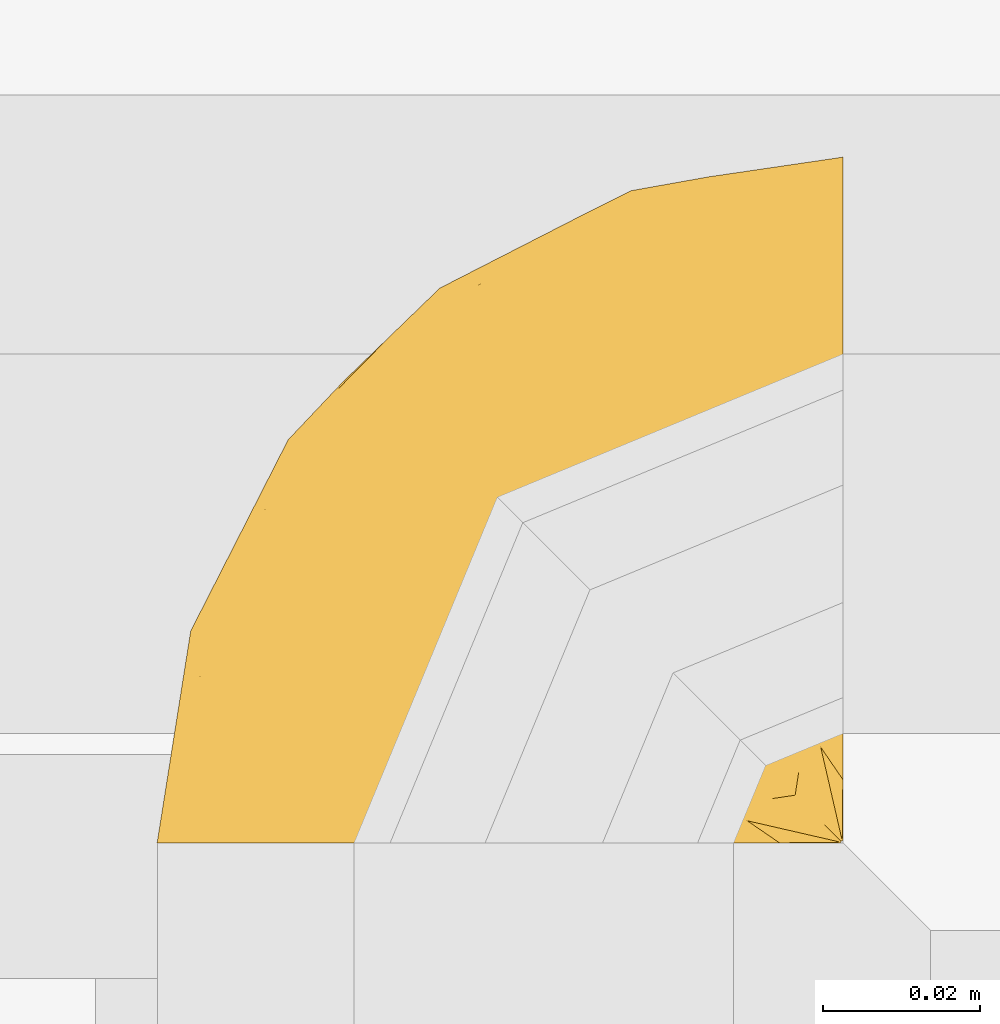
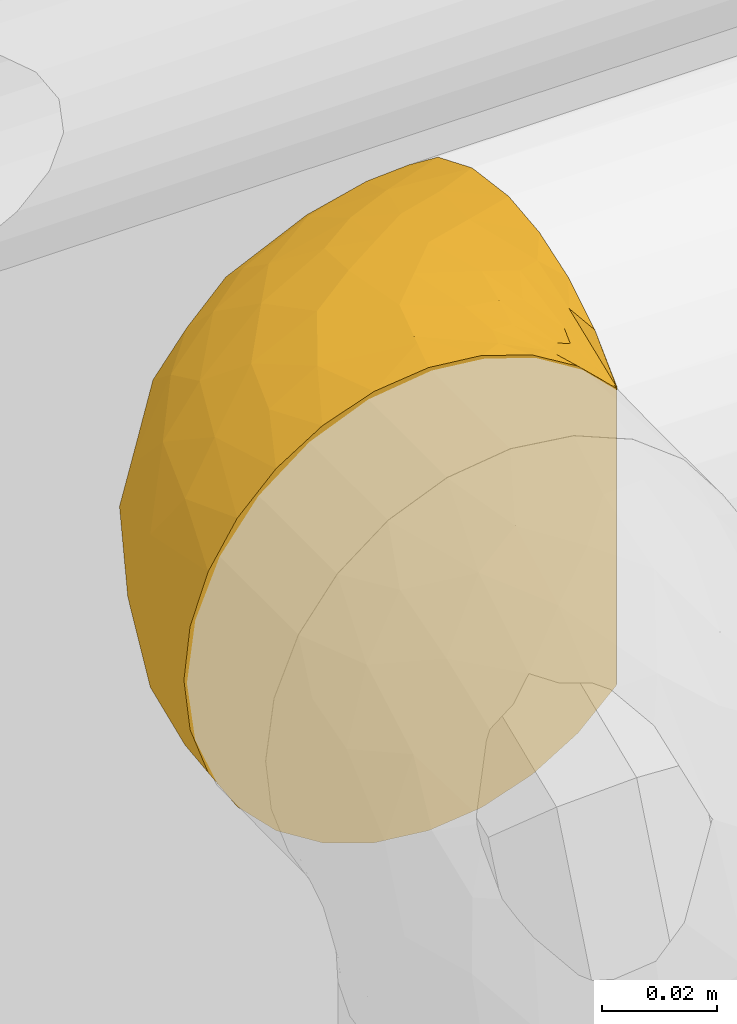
# One storey, part 15 of 94: 1 covering.
"""IFC2X3 building model written with IfcOpenShell, lengths in millimetres."""

import ifcopenshell
import ifcopenshell.guid

model = None  # the IFC model being written
_history = None  # IfcOwnerHistory: only IFC2X3 demands one
_inside = {}  # id of a spatial element -> (the spatial element, [elements in it])
_under = {}  # id of a project, library or spatial element -> (it, [spatial elements below it])
_declared = {}  # id of a project -> (the project, [libraries it declares])
_typed = {}  # id of a type object -> (the type object, [elements of that type])
_made_of = {}  # id of a material, layer set ... -> (it, [elements and type objects made of it])


def new_model(schema):
    """Start an empty IFC model of exactly this schema.

    Asked for "IFC4X3", IfcOpenShell would pick the latest addendum, in which some entities
    have other attributes; the version numbers below select the first issue.
    IFC2X3 requires an IfcOwnerHistory on every rooted entity: one is made here for all.
    """
    global model, _history
    if schema == "IFC4X3":
        model = ifcopenshell.file(schema_version=(4, 3, 0, 0))
    else:
        model = ifcopenshell.file(schema=schema)
    _inside.clear()
    _under.clear()
    _declared.clear()
    _typed.clear()
    _made_of.clear()
    _history = None
    if model.schema == "IFC2X3":
        org = make("IfcOrganization", Name="unknown")
        user = make(
            "IfcPersonAndOrganization",
            ThePerson=make("IfcPerson", FamilyName="unknown"),
            TheOrganization=org,
        )
        app = make(
            "IfcApplication",
            ApplicationDeveloper=org,
            Version="unknown",
            ApplicationFullName="unknown",
            ApplicationIdentifier="unknown",
        )
        _history = make(
            "IfcOwnerHistory",
            OwningUser=user,
            OwningApplication=app,
            ChangeAction="ADDED",
            CreationDate=0,
        )
    return model


def make(cls, **values):
    """One entity of the class cls with the attributes given. An attribute that is None is left unset."""
    return model.create_entity(
        cls, **{name: value for name, value in values.items() if value is not None}
    )


def entity(cls, *values):
    """Any entity or typed value of the class cls, its attributes in the order of the schema. None: left unset."""
    e = model.create_entity(cls)
    for i, value in enumerate(values):
        if value is not None:
            e[i] = value
    return e


def rooted(cls, **values):
    """An entity with a GlobalId (a new one), such as an element, a storey or a relation."""
    return make(cls, GlobalId=ifcopenshell.guid.new(), OwnerHistory=_history, **values)


def si_unit(unit_type, name, prefix=None):
    """IfcSIUnit, for example si_unit("LENGTHUNIT", "METRE", prefix="MILLI")."""
    return make("IfcSIUnit", UnitType=unit_type, Prefix=prefix, Name=name)


def converted_unit(unit_type, name, factor, base, dimensions=None, offset=None):
    """IfcConversionBasedUnit, such as the inch: factor (a typed value) times the base unit."""
    return make(
        "IfcConversionBasedUnit"
        if offset is None
        else "IfcConversionBasedUnitWithOffset",
        ConversionOffset=offset,
        Dimensions=None
        if dimensions is None
        else entity("IfcDimensionalExponents", *dimensions),
        UnitType=unit_type,
        Name=name,
        ConversionFactor=make(
            "IfcMeasureWithUnit", ValueComponent=factor, UnitComponent=base
        ),
    )


def derived_unit(unit_type, elements):
    """IfcDerivedUnit: a product of units, each with its exponent."""
    return make(
        "IfcDerivedUnit",
        Elements=[
            make("IfcDerivedUnitElement", Unit=unit, Exponent=power)
            for unit, power in elements
        ],
        UnitType=unit_type,
    )


def assignment(units):
    """IfcUnitAssignment: the units of a project."""
    return None if units is None else make("IfcUnitAssignment", Units=units)


def point(xyz):
    """IfcCartesianPoint."""
    return None if xyz is None else make("IfcCartesianPoint", Coordinates=xyz)


def direction(xyz):
    """IfcDirection."""
    return None if xyz is None else make("IfcDirection", DirectionRatios=xyz)


def frame(location, z_axis=None, x_axis=None):
    """IfcAxis2Placement3D, a coordinate frame: its origin and axes. An axis left out is left unset."""
    return make(
        "IfcAxis2Placement3D",
        Location=point(location),
        Axis=direction(z_axis),
        RefDirection=direction(x_axis),
    )


def origin():
    """The frame at (0, 0, 0) with its axes left unset."""
    return frame((0.0, 0.0, 0.0))


def place(relative_to, where):
    """IfcLocalPlacement: puts the frame where relative to a parent placement (None: the world)."""
    return make(
        "IfcLocalPlacement", PlacementRelTo=relative_to, RelativePlacement=where
    )


def context(
    kind, dimensions, precision=None, world=None, true_north=None, identifier=None
):
    """IfcGeometricRepresentationContext, for example the 3D "Model" context."""
    return make(
        "IfcGeometricRepresentationContext",
        ContextIdentifier=identifier,
        ContextType=kind,
        CoordinateSpaceDimension=dimensions,
        Precision=precision,
        WorldCoordinateSystem=world,
        TrueNorth=true_north,
    )


def subcontext(parent, identifier, kind, view, scale=None):
    """IfcGeometricRepresentationSubContext, for example "Body" below "Model"."""
    return make(
        "IfcGeometricRepresentationSubContext",
        ContextIdentifier=identifier,
        ContextType=kind,
        ParentContext=parent,
        TargetScale=scale,
        TargetView=view,
    )


def project(units=None, contexts=None):
    """IfcProject with its units and contexts."""
    return rooted(
        "IfcProject",
        Name="project",
        RepresentationContexts=contexts,
        UnitsInContext=assignment(units),
    )


def spatial(cls, under=None, at=None, **own):
    """A site, building, storey or space (cls), placed at a placement, below another one or the project."""
    s = rooted(cls, ObjectPlacement=at, **own)
    if under is not None:
        _under.setdefault(under.id(), (under, []))[1].append(s)
    return s


def faces_of(points, faces, orient=None, outer=None):
    """IfcFace entities. A face is a list of loops; a loop is a list of indices into points, from 0.

    orient and outer hold one flag for each loop. By default every Orientation is true, the
    first loop of a face is its IfcFaceOuterBound and the others are IfcFaceBound.
    """
    made = []
    for i, loops in enumerate(faces):
        bounds = []
        for j, loop in enumerate(loops):
            is_outer = j == 0 if outer is None else outer[i][j]
            bounds.append(
                make(
                    "IfcFaceOuterBound" if is_outer else "IfcFaceBound",
                    Bound=make("IfcPolyLoop", Polygon=[points[k] for k in loop]),
                    Orientation=True if orient is None else orient[i][j],
                )
            )
        made.append(make("IfcFace", Bounds=bounds))
    return made


def faceted_brep(points, faces, orient=None, outer=None, voids=None):
    """IfcFacetedBrep: a solid bounded by flat faces; with voids (closed shells), ...WithVoids."""
    shared = [point(p) for p in points]
    hull = make("IfcClosedShell", CfsFaces=faces_of(shared, faces, orient, outer))
    if voids is None:
        return make("IfcFacetedBrep", Outer=hull)
    return make(
        "IfcFacetedBrepWithVoids",
        Outer=hull,
        Voids=[
            make(cls, CfsFaces=faces_of(shared, fs, o, b)) for cls, fs, o, b in voids
        ],
    )


def shape(context_of_items, identifier, shape_type, items):
    """IfcShapeRepresentation: the items that make up one representation, for example the "Body"."""
    return make(
        "IfcShapeRepresentation",
        ContextOfItems=context_of_items,
        RepresentationIdentifier=identifier,
        RepresentationType=shape_type,
        Items=items,
    )


def material(Name=None, Category=None):
    """IfcMaterial."""
    return make("IfcMaterial", Name=Name, Category=Category)


def made_of(thing, what):
    """Note that an element or type object is made of a material, layer set ...; save() writes the relation."""
    if what is not None:
        _made_of.setdefault(what.id(), (what, []))[1].append(thing)
    return thing


def element(
    cls,
    number,
    at=None,
    inside=None,
    cuts=None,
    type_object=None,
    material=None,
    context=None,
    identifier="Body",
    shape_type=None,
    held_by="IfcProductDefinitionShape",
    body=None,
    shapes=None,
    **own,
):
    """One element of the class cls, such as IfcWall. Its Tag is "e" and its number.

    at: its placement. inside: the storey or other place that contains it. cuts: it is an
    opening in that element (IfcRelVoidsElement). A single representation is given by context,
    identifier, shape_type and body (its items); several are given by shapes. held_by: the class
    of the entity that holds the representations. save() writes the other relations.
    """
    e = rooted(cls, Tag="e%d" % number, ObjectPlacement=at, **own)
    if body is not None:
        shapes = [shape(context, identifier, shape_type, body)]
    if shapes is not None:
        e.Representation = make(held_by, Representations=shapes)
    if inside is not None:
        _inside.setdefault(inside.id(), (inside, []))[1].append(e)
    if cuts is not None:
        rooted(
            "IfcRelVoidsElement", RelatingBuildingElement=cuts, RelatedOpeningElement=e
        )
    if type_object is not None:
        _typed.setdefault(type_object.id(), (type_object, []))[1].append(e)
    return made_of(e, material)


def aggregate(whole, parts):
    """IfcRelAggregates: a whole, such as a stair, and the parts it consists of."""
    return rooted("IfcRelAggregates", RelatingObject=whole, RelatedObjects=parts)


def save(model, path):
    """Write the relations noted so far, then the file.

    IfcRelAggregates (storeys below a building ...), IfcRelContainedInSpatialStructure (elements
    in a storey), IfcRelDefinesByType, IfcRelAssociatesMaterial and IfcRelDeclares: one each for
    every whole, place, type object, material and project.
    """
    for whole, parts in _under.values():
        aggregate(whole, parts)
    for where, things in _inside.values():
        rooted(
            "IfcRelContainedInSpatialStructure",
            RelatedElements=things,
            RelatingStructure=where,
        )
    for kind, things in _typed.values():
        rooted("IfcRelDefinesByType", RelatedObjects=things, RelatingType=kind)
    for what, things in _made_of.values():
        rooted("IfcRelAssociatesMaterial", RelatedObjects=things, RelatingMaterial=what)
    for by, libraries in _declared.values():
        rooted("IfcRelDeclares", RelatingContext=by, RelatedDefinitions=libraries)
    model.write(path)


model = new_model("IFC2X3")

# Units and contexts
model_context = context("Model", 3, precision=0.01, world=origin(), true_north=direction((6.123031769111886e-17, 1.0)))
body_context = subcontext(model_context, "Body", "Model", "MODEL_VIEW")
ifc_project = project(units=[si_unit("LENGTHUNIT", "METRE", prefix="MILLI"), si_unit("AREAUNIT", "SQUARE_METRE"), si_unit("VOLUMEUNIT", "CUBIC_METRE"), converted_unit("PLANEANGLEUNIT", "DEGREE", entity("IfcRatioMeasure", 0.017453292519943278), si_unit("PLANEANGLEUNIT", "RADIAN"), dimensions=[0, 0, 0, 0, 0, 0, 0]), si_unit("MASSUNIT", "GRAM", prefix="KILO"), derived_unit("MASSDENSITYUNIT", [(si_unit("MASSUNIT", "GRAM", prefix="KILO"), 1), (si_unit("LENGTHUNIT", "METRE"), -3)]), derived_unit("IONCONCENTRATIONUNIT", [(si_unit("MASSUNIT", "GRAM", prefix="KILO"), 1), (si_unit("LENGTHUNIT", "METRE"), -3)]), derived_unit("MOMENTOFINERTIAUNIT", [(si_unit("LENGTHUNIT", "METRE"), 4)]), si_unit("TIMEUNIT", "SECOND"), si_unit("FREQUENCYUNIT", "HERTZ"), si_unit("THERMODYNAMICTEMPERATUREUNIT", "DEGREE_CELSIUS"), derived_unit("THERMALTRANSMITTANCEUNIT", [(si_unit("MASSUNIT", "GRAM", prefix="KILO"), 1), (si_unit("THERMODYNAMICTEMPERATUREUNIT", "KELVIN"), -1), (si_unit("TIMEUNIT", "SECOND"), -3)]), derived_unit("THERMALCONDUCTANCEUNIT", [(si_unit("MASSUNIT", "GRAM", prefix="KILO"), 1), (si_unit("THERMODYNAMICTEMPERATUREUNIT", "KELVIN"), -1), (si_unit("TIMEUNIT", "SECOND"), -3), (si_unit("LENGTHUNIT", "METRE"), 1)]), derived_unit("VOLUMETRICFLOWRATEUNIT", [(si_unit("LENGTHUNIT", "METRE"), 3), (si_unit("TIMEUNIT", "SECOND"), -1)]), derived_unit("MASSFLOWRATEUNIT", [(si_unit("MASSUNIT", "GRAM", prefix="KILO"), 1), (si_unit("TIMEUNIT", "SECOND"), -1)]), derived_unit("ROTATIONALFREQUENCYUNIT", [(si_unit("TIMEUNIT", "SECOND"), -1)]), si_unit("ELECTRICCURRENTUNIT", "AMPERE"), si_unit("ELECTRICVOLTAGEUNIT", "VOLT"), si_unit("POWERUNIT", "WATT"), si_unit("FORCEUNIT", "NEWTON", prefix="KILO"), si_unit("ILLUMINANCEUNIT", "LUX"), si_unit("LUMINOUSFLUXUNIT", "LUMEN"), si_unit("LUMINOUSINTENSITYUNIT", "CANDELA"), derived_unit("USERDEFINED", [(si_unit("MASSUNIT", "GRAM", prefix="KILO"), -1), (si_unit("LENGTHUNIT", "METRE"), -2), (si_unit("TIMEUNIT", "SECOND"), 3), (si_unit("LUMINOUSFLUXUNIT", "LUMEN"), 1)]), derived_unit("USERDEFINED", [(si_unit("MASSUNIT", "GRAM", prefix="KILO"), 1), (si_unit("TIMEUNIT", "SECOND"), -3), (si_unit("LENGTHUNIT", "METRE"), 3), (si_unit("ELECTRICCURRENTUNIT", "AMPERE"), -2)]), derived_unit("SOUNDPOWERUNIT", [(si_unit("MASSUNIT", "GRAM", prefix="KILO"), 1), (si_unit("TIMEUNIT", "SECOND"), -3), (si_unit("LENGTHUNIT", "METRE"), 2)]), derived_unit("SOUNDPRESSUREUNIT", [(si_unit("MASSUNIT", "GRAM", prefix="KILO"), 1), (si_unit("LENGTHUNIT", "METRE"), -1), (si_unit("TIMEUNIT", "SECOND"), -2)]), derived_unit("LINEARVELOCITYUNIT", [(si_unit("LENGTHUNIT", "METRE"), 1), (si_unit("TIMEUNIT", "SECOND"), -1)]), si_unit("PRESSUREUNIT", "PASCAL"), derived_unit("USERDEFINED", [(si_unit("MASSUNIT", "GRAM", prefix="KILO"), 1), (si_unit("LENGTHUNIT", "METRE"), -2), (si_unit("TIMEUNIT", "SECOND"), -2)]), derived_unit("LINEARFORCEUNIT", [(si_unit("MASSUNIT", "GRAM", prefix="KILO"), 1), (si_unit("TIMEUNIT", "SECOND"), -2)]), derived_unit("PLANARFORCEUNIT", [(si_unit("MASSUNIT", "GRAM", prefix="KILO"), 1), (si_unit("LENGTHUNIT", "METRE"), -1), (si_unit("TIMEUNIT", "SECOND"), -2)]), derived_unit("SPECIFICHEATCAPACITYUNIT", [(si_unit("THERMODYNAMICTEMPERATUREUNIT", "KELVIN"), -1), (si_unit("LENGTHUNIT", "METRE"), 2), (si_unit("TIMEUNIT", "SECOND"), -2)]), derived_unit("HEATINGVALUEUNIT", [(si_unit("LENGTHUNIT", "METRE"), 2), (si_unit("TIMEUNIT", "SECOND"), -2)]), derived_unit("VAPORPERMEABILITYUNIT", [(si_unit("LENGTHUNIT", "METRE"), -1), (si_unit("TIMEUNIT", "SECOND"), 1)]), derived_unit("DYNAMICVISCOSITYUNIT", [(si_unit("MASSUNIT", "GRAM", prefix="KILO"), 1), (si_unit("TIMEUNIT", "SECOND"), -1), (si_unit("LENGTHUNIT", "METRE"), -1)]), derived_unit("THERMALEXPANSIONCOEFFICIENTUNIT", [(si_unit("THERMODYNAMICTEMPERATUREUNIT", "KELVIN"), -1)]), derived_unit("MODULUSOFELASTICITYUNIT", [(si_unit("MASSUNIT", "GRAM", prefix="KILO"), 1), (si_unit("LENGTHUNIT", "METRE"), -1), (si_unit("TIMEUNIT", "SECOND"), -2)]), derived_unit("ISOTHERMALMOISTURECAPACITYUNIT", [(si_unit("LENGTHUNIT", "METRE"), 3), (si_unit("MASSUNIT", "GRAM", prefix="KILO"), -1)]), derived_unit("MOISTUREDIFFUSIVITYUNIT", [(si_unit("TIMEUNIT", "SECOND"), -1), (si_unit("LENGTHUNIT", "METRE"), 2)])], contexts=[model_context])

# Site, building, storey
site_placement = place(None, origin())
site = spatial("IfcSite", under=ifc_project, at=site_placement, Name="Default", CompositionType="ELEMENT")
building_placement = place(site_placement, origin())
building = spatial("IfcBuilding", under=site, at=building_placement, CompositionType="ELEMENT")
storey_placement = place(building_placement, origin())
storey = spatial("IfcBuildingStorey", under=building, at=storey_placement, Name="Niveau 0", CompositionType="ELEMENT", Elevation=0.0)

# Covering
ifc_material = material(Name="Isolation - Laine minérale")
covering_placement = place(storey_placement, frame((-9922.89113779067, 9987.250352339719, 2900.745272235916)))
element("IfcCovering", 1, at=covering_placement, inside=storey, material=ifc_material, Name="Isolation des canalisations:Laine minérale", ObjectType="Isolation des canalisations:Laine minérale", PredefinedType="INSULATION", context=body_context, shape_type="Brep", body=[
    faceted_brep([(29.412134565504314, 1.5952722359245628, -6.466386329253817), (20.093252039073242, 1.5952722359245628, -12.324234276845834), (12.312548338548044, 1.5952722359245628, -20.107905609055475), (6.459227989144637, 1.5952722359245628, -29.426998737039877), (2.826140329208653, 1.5952722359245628, -39.814613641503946), (1.5952722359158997, 1.5952722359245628, -50.7452722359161), (2.8288129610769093, 1.5952722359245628, -61.68764083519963), (6.466386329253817, 1.5952722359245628, -72.07840990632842), (12.324234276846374, 1.5952722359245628, -81.39729243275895), (20.107905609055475, 1.5952722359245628, -89.17799613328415), (29.42699873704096, 1.5952722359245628, -95.03131648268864), (39.81461364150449, 1.5952722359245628, -98.66440414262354), (50.74527223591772, 1.5952722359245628, -99.8952722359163), (61.40435822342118, 1.5952722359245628, -98.72554303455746), (71.55257335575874, 1.5952722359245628, -95.27367575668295), (80.70896636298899, 1.5952722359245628, -89.70550239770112), (88.43165280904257, 1.5952722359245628, -82.2961711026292), (88.43165280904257, 1.5952722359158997, -79.85190220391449), (88.43165280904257, 1.5952722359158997, -78.07484973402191), (88.43165280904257, 1.5952722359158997, -76.2977972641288), (88.43165280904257, 1.5952722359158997, -74.79820380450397), (88.43165280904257, 1.5952722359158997, -73.2986103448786), (88.43165280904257, 1.5952722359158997, -70.29942342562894), (88.43165280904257, 1.5952722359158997, -67.30023650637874), (88.43165280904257, 1.5952722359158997, -64.30104958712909), (88.43165280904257, 1.5952722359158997, -61.301862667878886), (88.43165280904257, 1.5952722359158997, -59.80226920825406), (88.43165280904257, 1.5952722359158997, -58.30267574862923), (88.43165280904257, 1.5952722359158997, -55.858406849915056), (88.43165280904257, 1.5952722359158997, -53.41413795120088), (88.43165280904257, 1.5952722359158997, -50.96986905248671), (88.43165280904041, 1.5952722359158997, -48.52560015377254), (88.43165280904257, 1.5952722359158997, -46.08133125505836), (88.43165280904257, 1.5952722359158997, -43.63706235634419), (88.43165280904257, 1.5952722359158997, -41.19279345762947), (88.43165280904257, 1.5952722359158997, -38.74852455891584), (88.43165280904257, 1.5952722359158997, -36.30425566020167), (88.43165280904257, 1.5952722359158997, -33.85998676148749), (88.43165280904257, 1.5952722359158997, -31.41571786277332), (88.43165280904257, 1.5952722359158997, -28.971448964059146), (88.43165280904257, 1.5952722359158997, -26.52718006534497), (88.43165280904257, 1.5952722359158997, -24.082911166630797), (88.43165280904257, 1.5952722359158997, -21.638642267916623), (88.43165280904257, 1.5952722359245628, -19.194373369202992), (80.69235262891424, 1.5952722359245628, -11.772270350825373), (71.53113811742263, 1.5952722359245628, -6.2068587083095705), (61.3839004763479, 1.5952722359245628, -2.760461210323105), (50.74527223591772, 1.5952722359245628, -1.5952722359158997), (39.802903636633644, 1.5952722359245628, -2.828812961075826), (88.74527223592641, 1.908891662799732, -82.29617110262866), (88.74527223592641, 9.641963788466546, -89.71348765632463), (88.74527223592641, 18.798688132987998, -95.27868204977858), (88.74527223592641, 28.94385431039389, -98.7272458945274), (88.74527223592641, 39.59527223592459, -99.89527223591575), (88.74527223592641, 52.31622830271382, -98.22052659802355), (88.74527223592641, 64.1702722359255, -93.31042083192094), (88.74527223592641, 74.34957053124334, -85.49957053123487), (88.74527223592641, 82.16042083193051, -75.32027223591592), (88.74527223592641, 87.07052659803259, -63.46622830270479), (88.74527223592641, 88.74527223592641, -50.7452722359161), (88.74527223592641, 87.07052659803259, -38.02431616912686), (88.74527223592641, 82.16042083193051, -26.17027223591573), (88.74527223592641, 74.34957053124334, -15.990973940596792), (88.74527223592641, 64.1702722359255, -8.180123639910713), (88.74527223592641, 52.31622830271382, -3.2700178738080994), (88.74527223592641, 39.59527223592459, -1.5952722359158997), (88.74527223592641, 28.94385431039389, -2.7632985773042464), (88.74527223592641, 18.798688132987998, -6.211862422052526), (88.74527223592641, 9.641963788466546, -11.777056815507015), (88.74527223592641, 1.908891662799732, -19.19437336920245), (88.74527223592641, 1.908891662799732, -21.638642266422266), (88.74527223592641, 1.908891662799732, -23.138235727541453), (88.74527223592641, 1.908891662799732, -25.110166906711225), (88.74527223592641, 1.908891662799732, -27.082098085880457), (88.74527223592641, 1.908891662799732, -29.05402926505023), (88.74527223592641, 1.908891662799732, -31.02596044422), (88.74527223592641, 1.908891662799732, -32.99789162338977), (88.74527223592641, 1.908891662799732, -34.969822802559), (88.74527223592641, 1.908891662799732, -36.94175398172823), (88.74527223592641, 1.908891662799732, -38.913685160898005), (88.74527223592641, 1.908891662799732, -40.88561634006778), (88.74527223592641, 1.908891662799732, -42.85754751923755), (88.74527223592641, 1.908891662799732, -44.82947869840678), (88.74527223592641, 1.908891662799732, -46.80140987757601), (88.74527223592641, 1.908891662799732, -48.773341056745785), (88.74527223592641, 1.908891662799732, -50.74527223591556), (88.74527223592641, 1.908891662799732, -52.71720341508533), (88.74527223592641, 1.908891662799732, -54.6891345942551), (88.74527223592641, 1.9088916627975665, -56.661065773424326), (88.74527223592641, 1.9088916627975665, -58.632996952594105), (88.74527223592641, 1.908891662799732, -60.60492813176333), (88.74527223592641, 1.908891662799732, -62.5768593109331), (88.74527223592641, 1.908891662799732, -64.54879049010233), (88.74527223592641, 1.908891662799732, -66.5207216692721), (88.74527223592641, 1.908891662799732, -69.51990859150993), (88.74527223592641, 1.908891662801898, -72.51909551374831), (88.74527223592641, 1.908891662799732, -74.96336441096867), (88.74527223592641, 1.908891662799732, -77.40763330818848), (88.74527223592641, 1.908891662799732, -79.85190220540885), (88.53090125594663, 1.8241875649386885, -47.73720476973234), (88.52210831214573, 1.8156242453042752, -49.65777912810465), (88.52122178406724, 1.8147227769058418, -40.01764283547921), (88.52777998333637, 1.8212241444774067, -37.92771907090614), (88.54092532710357, 1.8331787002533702, -53.48951745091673), (88.53506454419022, 1.828016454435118, -24.240550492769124), (88.49130573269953, 1.7792781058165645, -20.791406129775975), (88.51810292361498, 1.8114926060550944, -59.05247302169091), (88.52350981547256, 1.817034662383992, -78.62976787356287), (88.52548149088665, 1.81898896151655, -76.79032803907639), (88.51653277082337, 1.8098308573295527, -30.120454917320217), (88.52674320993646, 1.820221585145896, -28.08670561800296), (88.50469006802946, 1.7964621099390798, -57.08054182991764), (88.52964682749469, 1.8230063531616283, -63.562825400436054), (88.53317608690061, 1.826296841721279, -61.67745907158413), (88.51585328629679, 1.8091041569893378, -65.53475654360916), (88.52914218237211, 1.8225274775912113, -51.73123795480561), (88.52350981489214, 1.817034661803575, -22.3884388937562), (88.52591800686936, 1.8194169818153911, -80.4629694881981), (88.53664906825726, 1.8294378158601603, -45.815443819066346), (88.53747885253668, 1.8301744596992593, -33.98385679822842), (88.53273195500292, 1.825888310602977, -35.87599747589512), (88.53426299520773, 1.8272900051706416, -67.38596354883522), (88.53370000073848, 1.8267767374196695, -43.93836928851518), (88.53493173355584, 1.8278964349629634, -26.096132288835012), (88.52350981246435, 1.8170346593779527, -19.19437336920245), (88.4948797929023, 1.747915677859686, -19.194373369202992), (88.46624977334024, 1.6787966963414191, -19.19437336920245), (88.52350981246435, 1.8170346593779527, -82.29617110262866), (88.59262879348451, 1.8456646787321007, -82.2961711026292), (88.66174777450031, 1.8742946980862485, -82.2961711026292), (88.5100064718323, 1.8026539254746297, -69.27838714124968), (88.53042484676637, 1.8237404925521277, -32.054952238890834), (88.52246762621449, 1.8159875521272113, -55.242256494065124), (88.52470424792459, 1.8182226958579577, -41.99993111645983), (88.50579329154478, 1.7977740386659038, -72.07129245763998), (88.5274414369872, 1.8208977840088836, -74.04840730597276), (88.66174777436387, 1.8742946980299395, -19.194373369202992), (88.59262879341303, 1.8456646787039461, -19.194373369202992), (88.46624977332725, 1.678796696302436, -82.2961711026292), (88.4948797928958, 1.7479156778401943, -82.2961711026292), (85.22080157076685, 23.495219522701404, -97.28026065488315), (85.93611072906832, 13.747756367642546, -92.74636463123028), (81.07807843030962, 22.409779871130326, -97.28026068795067), (83.13289242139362, 10.562522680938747, -91.53496062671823), (79.24527223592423, 37.049754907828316, -99.8952722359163), (81.28890223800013, 37.59734391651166, -99.8952722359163), (55.83630689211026, 20.595272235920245, -99.8952722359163), (66.39553001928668, 16.02014974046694, -98.55504664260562), (67.9404040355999, 9.26167767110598, -97.27709237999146), (69.74527223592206, 34.50423757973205, -99.8952722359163), (80.67378389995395, 9.667897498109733, -92.08523869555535), (79.78892094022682, 7.2029124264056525, -91.52705697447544), (74.32109358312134, 23.944746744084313, -98.554902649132), (66.85470593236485, 5.119390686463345, -97.27709230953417), (76.60336361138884, 4.4028932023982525, -92.73988957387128), (79.64911936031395, 17.541506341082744, -95.7999166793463), (52.743200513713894, 9.051642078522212, -99.8952722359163), (53.29078956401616, 11.095272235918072, -99.8952722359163), (73.61168493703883, 16.728859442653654, -97.0079248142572), (62.790789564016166, 27.549754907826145, -99.8952722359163), (73.87988529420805, 12.071559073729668, -95.72448717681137), (75.32913676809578, 47.623950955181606, -98.87881941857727), (65.9107418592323, 44.00144112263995, -98.83301276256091), (53.84761415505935, 58.899698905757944, -90.35896612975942), (59.13651173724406, 72.66771487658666, -80.6658965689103), (71.16612245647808, 67.20155656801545, -89.73858973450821), (67.0054527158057, 54.07984229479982, -96.15395204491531), (78.8805128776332, 57.54110754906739, -96.15395161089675), (37.51978749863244, 72.10110329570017, -50.7452722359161), (61.81444117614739, 84.47984763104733, -50.7452722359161), (53.875201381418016, 80.24801351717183, -61.15080493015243), (25.784943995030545, 13.851436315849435, -92.3663011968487), (36.24418276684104, 15.165285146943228, -97.13949915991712), (29.562882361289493, 60.77765845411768, -68.84359020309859), (30.77068194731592, 55.38583609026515, -77.72163513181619), (15.292222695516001, 43.89737524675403, -65.87522637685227), (71.31385843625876, 86.12648113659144, -59.79441061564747), (47.24102741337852, 73.23168363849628, -70.98072673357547), (43.50389303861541, 64.74738573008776, -79.7421140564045), (75.28985257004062, 77.40373146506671, -80.66589650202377), (67.10273039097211, 82.14716981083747, -69.55416171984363), (37.09920094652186, 52.829115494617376, -85.50619835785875), (44.51517687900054, 48.878965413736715, -91.98084112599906), (33.70477633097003, 40.607220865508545, -90.08477530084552), (44.05169469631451, 28.769953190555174, -97.76701228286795), (30.044081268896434, 27.448445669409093, -92.36630165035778), (18.312338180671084, 19.800365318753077, -85.5061967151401), (5.8606968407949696, 28.52610329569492, -50.7452722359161), (7.04140620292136, 22.71562192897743, -66.98519337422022), (25.61446965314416, 42.31748570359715, -82.95460966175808), (15.886915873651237, 33.68382770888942, -76.90235033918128), (10.600409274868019, 16.806973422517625, -76.90235057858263), (38.50378416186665, 71.07858054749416, -62.41468564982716), (25.345180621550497, 60.332491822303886, -59.14435954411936), (53.163504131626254, 33.37332146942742, -98.92729244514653), (18.239441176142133, 52.82075697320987, -50.7452722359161), (52.69469876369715, 43.46542968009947, -96.76809515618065), (58.17589226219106, 79.20017463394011, -31.93638344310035), (71.70091272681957, 86.24488809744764, -41.905436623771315), (54.57433327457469, 80.83807017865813, -41.62511866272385), (42.49805076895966, 72.52816019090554, -35.352647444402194), (75.06235489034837, 83.87397883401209, -31.936382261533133), (24.5251412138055, 35.798660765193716, -15.997222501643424), (25.786342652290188, 48.02046276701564, -22.50195470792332), (15.878231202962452, 33.68736739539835, -24.603113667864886), (37.08979212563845, 52.83844921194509, -15.997599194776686), (35.71336208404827, 59.75598123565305, -23.203879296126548), (36.23150879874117, 15.17001623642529, -4.355753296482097), (70.53804152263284, 45.55141709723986, -2.5375085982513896), (69.74527223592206, 34.50423757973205, -1.5952722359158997), (79.24527223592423, 37.049754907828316, -1.5952722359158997), (7.0362994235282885, 22.71467774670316, -34.51880576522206), (69.24086116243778, 76.07714087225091, -20.82464795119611), (30.03051209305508, 27.454651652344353, -9.133617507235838), (25.770245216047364, 13.854008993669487, -9.133617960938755), (76.87540408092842, 68.47065883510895, -11.751955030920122), (74.00473445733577, 56.45843349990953, -5.336592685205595), (48.41047025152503, 68.0885450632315, -21.865705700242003), (62.62553049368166, 64.29272071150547, -11.751954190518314), (31.220776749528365, 66.01125638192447, -41.9823852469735), (29.560345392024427, 60.78019542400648, -32.65601578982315), (79.82666983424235, 48.01911236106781, -2.477909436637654), (10.591274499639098, 16.809109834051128, -24.603113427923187), (15.28724730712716, 43.900853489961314, -35.63402191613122), (18.299506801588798, 19.803681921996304, -15.997600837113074), (44.04987097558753, 28.78672684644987, -3.726659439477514), (55.83630689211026, 20.595272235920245, -1.5952722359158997), (54.23536248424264, 35.48506655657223, -2.7012349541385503), (62.790789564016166, 27.549754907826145, -1.5952722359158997), (52.743200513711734, 9.051642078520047, -1.5952722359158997), (53.29078956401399, 11.095272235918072, -1.5952722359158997), (48.41211537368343, 53.16291239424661, -9.986684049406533), (64.14304703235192, 52.0530845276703, -5.0637132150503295), (40.10640265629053, 41.40103739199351, -8.340625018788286), (62.89073418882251, 40.721221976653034, -2.407172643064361), (47.672778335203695, 60.91677547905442, -15.399468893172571), (55.38955823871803, 45.94061161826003, -4.812375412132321), (81.07807840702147, 22.409778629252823, -4.210284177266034), (78.26566497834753, 16.464254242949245, -5.763920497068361), (74.3207291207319, 23.943292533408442, -2.935886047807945), (85.22080145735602, 23.49521891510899, -4.210284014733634), (85.93611080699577, 13.747755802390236, -8.744180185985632), (83.13257230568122, 10.564867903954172, -9.954133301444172), (82.68198005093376, 7.656624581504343, -11.377788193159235), (73.61706381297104, 16.72348133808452, -4.485349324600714), (79.75777141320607, 7.216517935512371, -9.940890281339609), (67.9184535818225, 9.263185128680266, -4.2062740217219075), (66.83334757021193, 5.119593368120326, -4.206273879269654), (76.5844900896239, 4.4058785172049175, -8.739069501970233), (66.39770760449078, 16.01862728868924, -2.9361309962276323), (72.7838259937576, 10.692146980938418, -5.684713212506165)], [[[0, 1, 2, 3, 4, 5, 6, 7, 8, 9, 10, 11, 12, 13, 14, 15, 16, 17, 18, 19, 20, 21, 22, 23, 24, 25, 26, 27, 28, 29, 30, 31, 32, 33, 34, 35, 36, 37, 38, 39, 40, 41, 42, 43, 44, 45, 46, 47, 48]], [[49, 50, 51, 52, 53, 54, 55, 56, 57, 58, 59, 60, 61, 62, 63, 64, 65, 66, 67, 68, 69, 70, 71, 72, 73, 74, 75, 76, 77, 78, 79, 80, 81, 82, 83, 84, 85, 86, 87, 88, 89, 90, 91, 92, 93, 94, 95, 96, 97, 98]], [[99, 100, 84]], [[101, 102, 35]], [[86, 103, 87]], [[72, 71, 104]], [[105, 70, 69]], [[27, 26, 106]], [[18, 107, 108]], [[109, 74, 110]], [[28, 27, 111]], [[25, 112, 113]], [[108, 97, 96]], [[114, 93, 92]], [[103, 86, 115]], [[97, 107, 98]], [[116, 71, 70]], [[107, 17, 117]], [[79, 102, 101]], [[99, 118, 32]], [[77, 119, 120]], [[121, 93, 114]], [[112, 91, 113]], [[89, 111, 106]], [[40, 39, 110]], [[107, 97, 108]], [[32, 118, 122]], [[92, 91, 112]], [[37, 120, 119]], [[85, 115, 86]], [[70, 105, 116]], [[72, 123, 73]], [[105, 124, 125, 126, 43]], [[117, 17, 16]], [[41, 116, 42]], [[117, 127, 128, 129, 49]], [[110, 123, 40]], [[42, 116, 105]], [[121, 23, 130]], [[24, 114, 112]], [[114, 24, 23]], [[104, 123, 72]], [[92, 112, 114]], [[104, 116, 41]], [[24, 112, 25]], [[110, 73, 123]], [[36, 120, 37]], [[40, 123, 41]], [[75, 74, 109]], [[131, 76, 75]], [[119, 131, 37]], [[109, 110, 39]], [[109, 39, 38]], [[74, 73, 110]], [[123, 104, 41]], [[116, 104, 71]], [[26, 25, 113]], [[113, 90, 106]], [[88, 87, 132]], [[113, 106, 26]], [[77, 76, 119]], [[132, 111, 88]], [[106, 111, 27]], [[132, 28, 111]], [[88, 111, 89]], [[89, 106, 90]], [[113, 91, 90]], [[131, 119, 76]], [[38, 37, 131]], [[120, 36, 102]], [[131, 109, 38]], [[109, 131, 75]], [[79, 78, 102]], [[78, 120, 102]], [[78, 77, 120]], [[122, 81, 133]], [[36, 35, 102]], [[33, 122, 133]], [[80, 79, 101]], [[34, 101, 35]], [[132, 29, 28]], [[81, 80, 133]], [[29, 103, 115]], [[30, 29, 115]], [[87, 103, 132]], [[100, 115, 85]], [[31, 30, 100]], [[115, 100, 30]], [[32, 31, 99]], [[118, 82, 122]], [[100, 85, 84]], [[99, 83, 118]], [[82, 118, 83]], [[33, 32, 122]], [[83, 99, 84]], [[100, 99, 31]], [[34, 33, 133]], [[122, 82, 81]], [[133, 101, 34]], [[101, 133, 80]], [[134, 95, 94]], [[23, 121, 114]], [[132, 103, 29]], [[121, 94, 93]], [[94, 121, 130]], [[98, 107, 117]], [[108, 20, 19, 18]], [[21, 135, 134]], [[20, 135, 21]], [[134, 135, 95]], [[108, 96, 135]], [[108, 135, 20]], [[135, 96, 95]], [[134, 22, 21]], [[130, 22, 134]], [[42, 105, 43]], [[105, 69, 136, 137, 124]], [[98, 117, 49]], [[117, 16, 138, 139, 127]], [[18, 17, 107]], [[94, 130, 134]], [[22, 130, 23]], [[140, 141, 142]], [[143, 129, 128, 127]], [[52, 144, 145, 53]], [[146, 147, 148]], [[142, 149, 144]], [[150, 127, 151]], [[51, 140, 52]], [[142, 152, 149]], [[52, 140, 144]], [[129, 143, 141]], [[14, 13, 153]], [[148, 151, 154]], [[155, 141, 143]], [[151, 138, 154]], [[14, 153, 154]], [[16, 15, 138]], [[13, 12, 156, 157]], [[152, 155, 158]], [[159, 158, 147]], [[157, 148, 153]], [[14, 154, 15]], [[50, 49, 129]], [[50, 129, 141]], [[141, 51, 50]], [[160, 148, 147]], [[146, 148, 157]], [[138, 15, 154]], [[150, 158, 155]], [[151, 127, 139, 138]], [[141, 140, 51]], [[144, 140, 142]], [[157, 153, 13]], [[154, 153, 148]], [[149, 152, 159]], [[160, 147, 158]], [[147, 146, 159]], [[155, 152, 142]], [[159, 152, 158]], [[127, 150, 143]], [[160, 150, 151]], [[150, 160, 158]], [[148, 160, 151]], [[141, 155, 142]], [[155, 143, 150]], [[156, 12, 11]], [[161, 149, 162]], [[163, 164, 165]], [[166, 167, 161]], [[168, 169, 170]], [[55, 165, 56]], [[171, 172, 10]], [[173, 174, 175]], [[58, 176, 59]], [[173, 177, 178]], [[179, 57, 56]], [[55, 167, 165]], [[170, 180, 177]], [[57, 179, 180]], [[167, 55, 54]], [[181, 182, 183]], [[184, 146, 172]], [[172, 185, 184]], [[186, 185, 171]], [[186, 9, 8]], [[172, 146, 157, 156]], [[172, 11, 10]], [[173, 178, 174]], [[6, 187, 188]], [[189, 186, 190]], [[191, 186, 8]], [[175, 190, 188]], [[168, 192, 193]], [[189, 190, 174]], [[57, 180, 58]], [[8, 7, 191]], [[188, 7, 6]], [[6, 5, 187]], [[190, 191, 188]], [[159, 194, 162]], [[175, 187, 195]], [[177, 180, 164]], [[10, 9, 171]], [[176, 180, 170]], [[156, 11, 172]], [[163, 165, 166]], [[179, 165, 164]], [[54, 53, 145]], [[185, 189, 183]], [[184, 196, 194]], [[188, 191, 7]], [[186, 191, 190]], [[186, 171, 9]], [[172, 171, 185]], [[187, 175, 188]], [[193, 175, 195]], [[196, 163, 166]], [[163, 181, 178]], [[162, 166, 161]], [[184, 185, 183]], [[178, 177, 164]], [[177, 192, 170]], [[177, 173, 192]], [[176, 170, 169]], [[59, 176, 169]], [[58, 180, 176]], [[193, 192, 173]], [[168, 170, 192]], [[175, 193, 173]], [[168, 193, 195]], [[163, 178, 164]], [[184, 194, 146]], [[178, 181, 174]], [[189, 174, 181]], [[175, 174, 190]], [[183, 189, 181]], [[186, 189, 185]], [[182, 181, 163]], [[183, 182, 184]], [[163, 196, 182]], [[184, 182, 196]], [[165, 179, 56]], [[180, 179, 164]], [[161, 54, 145]], [[165, 167, 166]], [[54, 161, 167]], [[161, 145, 144, 149]], [[159, 162, 149]], [[196, 166, 162]], [[162, 194, 196]], [[146, 194, 159]], [[197, 198, 199]], [[59, 169, 198]], [[197, 199, 200]], [[198, 197, 201]], [[202, 203, 204]], [[61, 60, 201]], [[205, 206, 203]], [[0, 48, 207]], [[208, 209, 210]], [[187, 4, 211]], [[201, 212, 61]], [[213, 214, 207]], [[62, 215, 63]], [[63, 215, 216]], [[3, 211, 4]], [[217, 218, 212]], [[219, 220, 200]], [[216, 208, 221]], [[3, 2, 222]], [[63, 216, 64]], [[62, 61, 212]], [[211, 3, 222]], [[5, 4, 187]], [[217, 197, 200]], [[203, 223, 204]], [[2, 1, 224]], [[225, 213, 207]], [[204, 222, 224]], [[1, 0, 214]], [[204, 224, 202]], [[207, 226, 225]], [[227, 226, 228]], [[223, 211, 204]], [[214, 224, 1]], [[202, 224, 213]], [[48, 47, 229]], [[207, 229, 230, 226]], [[211, 223, 187]], [[218, 231, 232]], [[48, 229, 207]], [[205, 233, 231]], [[233, 213, 225]], [[217, 212, 197]], [[215, 212, 218]], [[228, 234, 227]], [[233, 205, 202]], [[208, 234, 209]], [[64, 221, 65]], [[235, 205, 231]], [[207, 214, 0]], [[224, 214, 213]], [[224, 222, 2]], [[211, 222, 204]], [[219, 223, 220]], [[187, 223, 195]], [[227, 233, 225]], [[234, 228, 209]], [[231, 233, 236]], [[221, 208, 210]], [[232, 208, 216]], [[65, 221, 210]], [[216, 221, 64]], [[233, 202, 213]], [[203, 202, 205]], [[205, 235, 206]], [[223, 203, 220]], [[200, 206, 217]], [[220, 203, 206]], [[232, 231, 236]], [[235, 218, 217]], [[212, 215, 62]], [[216, 215, 218]], [[218, 232, 216]], [[234, 232, 236]], [[232, 234, 208]], [[234, 236, 227]], [[233, 227, 236]], [[226, 227, 225]], [[198, 201, 60]], [[212, 201, 197]], [[59, 198, 60]], [[198, 169, 199]], [[169, 168, 199]], [[219, 200, 199]], [[219, 199, 168]], [[200, 220, 206]], [[168, 195, 219]], [[223, 219, 195]], [[218, 235, 231]], [[206, 235, 217]], [[66, 65, 210]], [[209, 237, 210]], [[238, 237, 239]], [[67, 240, 241]], [[242, 136, 241]], [[243, 137, 242]], [[243, 244, 245]], [[66, 240, 67]], [[136, 69, 68]], [[136, 68, 241]], [[246, 226, 230]], [[67, 241, 68]], [[210, 237, 240]], [[45, 247, 46]], [[209, 239, 237]], [[246, 247, 248]], [[46, 247, 230]], [[249, 250, 244]], [[239, 228, 244]], [[226, 246, 249]], [[250, 248, 245]], [[44, 43, 126]], [[237, 242, 241]], [[248, 45, 44]], [[44, 126, 248]], [[46, 230, 229, 47]], [[245, 126, 125]], [[126, 245, 248]], [[243, 124, 137]], [[210, 240, 66]], [[241, 240, 237]], [[248, 247, 45]], [[230, 247, 246]], [[226, 249, 228]], [[238, 239, 244]], [[239, 209, 228]], [[250, 249, 246]], [[228, 249, 244]], [[243, 242, 238]], [[136, 242, 137]], [[124, 243, 125]], [[125, 243, 245]], [[243, 238, 244]], [[237, 238, 242]], [[248, 250, 246]], [[244, 250, 245]]]),
])

save(model, "model.ifc")
